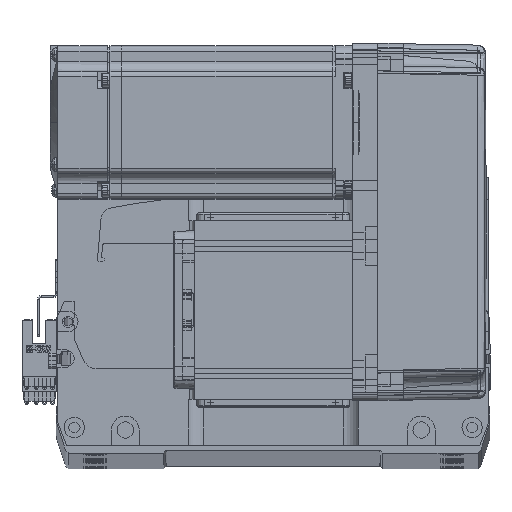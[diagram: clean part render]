
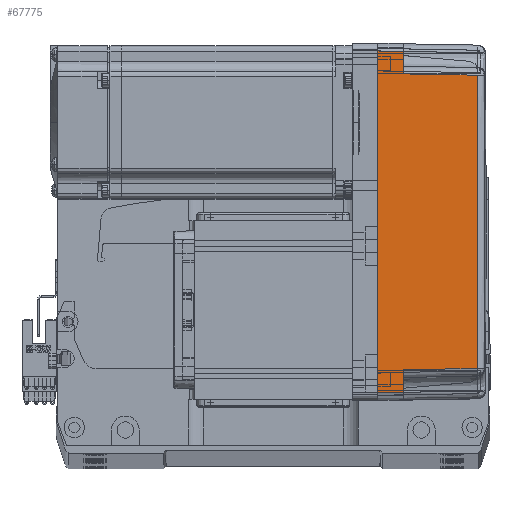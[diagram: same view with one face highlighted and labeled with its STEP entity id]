
A CAD part, top view. The second image highlights one B-rep face of the part: STEP entity #67775.
In plain terms, the highlighted planar face has unit normal (0.018, 0, 1) as drawn and (0, -1, 0.017) by its records, which use the part's own axes.
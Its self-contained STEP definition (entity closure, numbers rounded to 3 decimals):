
#2599 = FACE_OUTER_BOUND ( 'NONE', #63241, .T. ) ;
#4317 = EDGE_CURVE ( 'NONE', #41001, #68612, #12402, .T. ) ;
#7128 = CARTESIAN_POINT ( 'NONE',  ( 66.826, -35.825, 10. ) ) ;
#7325 = ORIENTED_EDGE ( 'NONE', *, *, #34491, .T. ) ;
#8867 = VECTOR ( 'NONE', #66660, 1000. ) ;
#9446 = EDGE_CURVE ( 'NONE', #63080, #36364, #65533, .T. ) ;
#9981 = ORIENTED_EDGE ( 'NONE', *, *, #60655, .T. ) ;
#11391 = CARTESIAN_POINT ( 'NONE',  ( 58., -35.825, 10. ) ) ;
#11472 = LINE ( 'NONE', #31976, #62814 ) ;
#12402 = LINE ( 'NONE', #38183, #8867 ) ;
#13438 = ORIENTED_EDGE ( 'NONE', *, *, #44600, .T. ) ;
#14132 = CARTESIAN_POINT ( 'NONE',  ( 67., -36., 0. ) ) ;
#15467 = DIRECTION ( 'NONE',  ( -1., 0., 0. ) ) ;
#16400 = ORIENTED_EDGE ( 'NONE', *, *, #4317, .F. ) ;
#16619 = CARTESIAN_POINT ( 'NONE',  ( 57.495, -35.32, 38.985 ) ) ;
#17619 = CARTESIAN_POINT ( 'NONE',  ( -19.165, -35.316, 39.181 ) ) ;
#17810 = VERTEX_POINT ( 'NONE', #46254 ) ;
#19286 = ORIENTED_EDGE ( 'NONE', *, *, #41593, .T. ) ;
#19343 = CARTESIAN_POINT ( 'NONE',  ( -57.495, -35.32, 38.985 ) ) ;
#21457 = DIRECTION ( 'NONE',  ( -0.017, -0.017, -1. ) ) ;
#21641 = VECTOR ( 'NONE', #15467, 1000. ) ;
#24247 = CARTESIAN_POINT ( 'NONE',  ( -66.826, -35.825, 10. ) ) ;
#25133 = DIRECTION ( 'NONE',  ( 0., -0.017, -1. ) ) ;
#25162 = CARTESIAN_POINT ( 'NONE',  ( -57.495, -35.32, 38.985 ) ) ;
#25490 = CARTESIAN_POINT ( 'NONE',  ( -67., -36., 0. ) ) ;
#28537 = EDGE_CURVE ( 'NONE', #60780, #41001, #59141, .T. ) ;
#28551 = ORIENTED_EDGE ( 'NONE', *, *, #28537, .F. ) ;
#29323 = VERTEX_POINT ( 'NONE', #16619 ) ;
#30060 = CARTESIAN_POINT ( 'NONE',  ( 70., -36., 0. ) ) ;
#31976 = CARTESIAN_POINT ( 'NONE',  ( 70., -35.825, 10. ) ) ;
#32065 = CARTESIAN_POINT ( 'NONE',  ( -57.495, -35.32, 38.985 ) ) ;
#33809 = VECTOR ( 'NONE', #57206, 1000. ) ;
#34491 = EDGE_CURVE ( 'NONE', #60780, #73073, #57697, .T. ) ;
#34885 = LINE ( 'NONE', #72117, #21641 ) ;
#36364 = VERTEX_POINT ( 'NONE', #41085 ) ;
#38183 = CARTESIAN_POINT ( 'NONE',  ( -66.959, -35.958, 2.39 ) ) ;
#41001 = VERTEX_POINT ( 'NONE', #25490 ) ;
#41085 = CARTESIAN_POINT ( 'NONE',  ( -58., -35.825, 10. ) ) ;
#41593 = EDGE_CURVE ( 'NONE', #29323, #63080, #72752, .T. ) ;
#41876 = CARTESIAN_POINT ( 'NONE',  ( 57.495, -35.32, 38.985 ) ) ;
#43767 = AXIS2_PLACEMENT_3D ( 'NONE', #30060, #53857, #25133 ) ;
#44600 = EDGE_CURVE ( 'NONE', #17810, #29323, #70066, .T. ) ;
#46254 = CARTESIAN_POINT ( 'NONE',  ( 58., -35.825, 10. ) ) ;
#47555 = DIRECTION ( 'NONE',  ( -0.017, 0.017, 1. ) ) ;
#47926 = VECTOR ( 'NONE', #47555, 1000. ) ;
#48614 = DIRECTION ( 'NONE',  ( -1., 0., 0. ) ) ;
#53857 = DIRECTION ( 'NONE',  ( 0., -1., 0.017 ) ) ;
#57206 = DIRECTION ( 'NONE',  ( -0.017, 0.017, 1. ) ) ;
#57604 = VECTOR ( 'NONE', #21457, 1000. ) ;
#57607 = PLANE ( 'NONE',  #43767 ) ;
#57697 = LINE ( 'NONE', #14132, #47926 ) ;
#59141 = LINE ( 'NONE', #71415, #72376 ) ;
#59981 = DIRECTION ( 'NONE',  ( -1., 0., 0. ) ) ;
#60655 = EDGE_CURVE ( 'NONE', #36364, #68612, #11472, .T. ) ;
#60780 = VERTEX_POINT ( 'NONE', #67621 ) ;
#62814 = VECTOR ( 'NONE', #59981, 1000. ) ;
#63080 = VERTEX_POINT ( 'NONE', #25162 ) ;
#63241 = EDGE_LOOP ( 'NONE', ( #7325, #73288, #13438, #19286, #66727, #9981, #16400, #28551 ) ) ;
#64410 = CARTESIAN_POINT ( 'NONE',  ( 19.165, -35.316, 39.181 ) ) ;
#65533 = LINE ( 'NONE', #32065, #57604 ) ;
#66660 = DIRECTION ( 'NONE',  ( 0.017, 0.017, 1. ) ) ;
#66727 = ORIENTED_EDGE ( 'NONE', *, *, #9446, .T. ) ;
#67621 = CARTESIAN_POINT ( 'NONE',  ( 67., -36., 0. ) ) ;
#67775 = ADVANCED_FACE ( 'NONE', ( #2599 ), #57607, .T. ) ;
#68612 = VERTEX_POINT ( 'NONE', #24247 ) ;
#70066 = LINE ( 'NONE', #11391, #33809 ) ;
#70922 = EDGE_CURVE ( 'NONE', #73073, #17810, #34885, .T. ) ;
#71415 = CARTESIAN_POINT ( 'NONE',  ( 0., -36., 0. ) ) ;
#72117 = CARTESIAN_POINT ( 'NONE',  ( 70., -35.825, 10. ) ) ;
#72376 = VECTOR ( 'NONE', #48614, 1000. ) ;
#72752 = B_SPLINE_CURVE_WITH_KNOTS ( 'NONE', 3,
 ( #41876, #64410, #17619, #19343 ),
 .UNSPECIFIED., .F., .F.,
 ( 4, 4 ),
 ( 0., 1. ),
 .UNSPECIFIED. ) ;
#73073 = VERTEX_POINT ( 'NONE', #7128 ) ;
#73288 = ORIENTED_EDGE ( 'NONE', *, *, #70922, .T. ) ;
